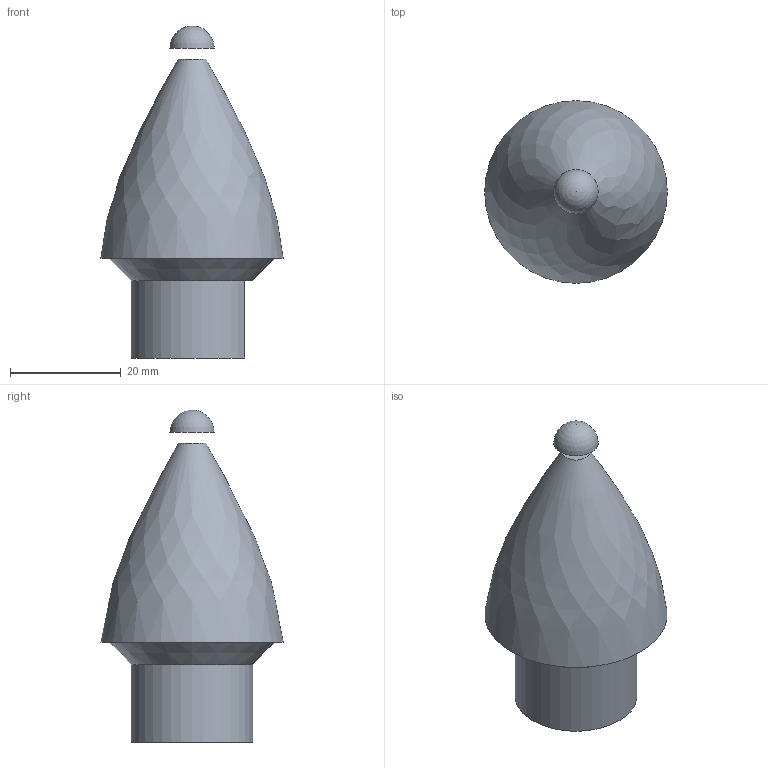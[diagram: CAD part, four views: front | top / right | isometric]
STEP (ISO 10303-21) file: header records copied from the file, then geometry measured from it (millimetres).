
FILE_DESCRIPTION(('Open CASCADE Model'),'2;1');
FILE_NAME('Open CASCADE Shape Model','2026-10-15T23:05:05',('Author'),( 'Open CASCADE'),'Open CASCADE STEP processor 7.9','Open CASCADE 7.9' ,'Unknown');
FILE_SCHEMA(('AUTOMOTIVE_DESIGN { 1 0 10303 214 1 1 1 1 }'));
Length unit declared in the file: millimetre
Products named in the file (3): Open CASCADE STEP translator 7.9 5; Open CASCADE STEP translator 7.9 5.1; Open CASCADE STEP translator 7.9 5.2
Assembly tree (2 placements, depth 2):
  Open CASCADE STEP translator 7.9 5
    Open CASCADE STEP translator 7.9 5.1
    Open CASCADE STEP translator 7.9 5.2
Bounding box: 33 x 33 x 60 mm (x, y, z)
Volume: 23137.7 mm3; surface area: 4767 mm2
Topology: 2 solids, 2 shells, 10 faces, 16 edges, 10 vertices
Faces by surface type: plane 6, revolution 1, cone 1, cylinder 1, sphere 1
Entity records: 470 total; most frequent: CARTESIAN_POINT 85, DIRECTION 72, ORIENTED_EDGE 30, PCURVE 30, DEFINITIONAL_REPRESENTATION 30, LINE 22, VECTOR 22, AXIS2_PLACEMENT_3D 21
